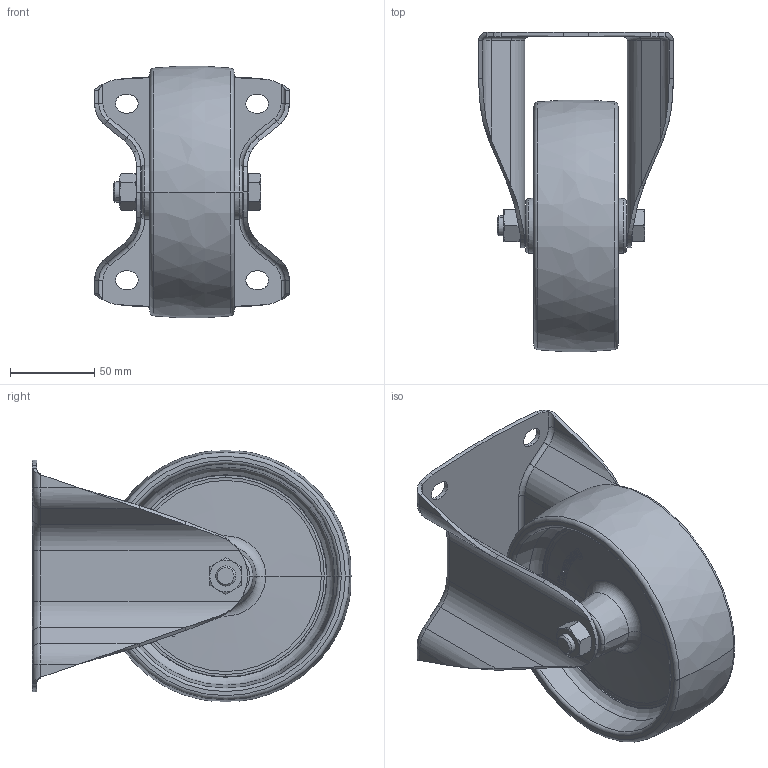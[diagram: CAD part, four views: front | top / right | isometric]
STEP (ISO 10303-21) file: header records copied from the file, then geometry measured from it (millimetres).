
FILE_DESCRIPTION (( 'STEP AP214' ), '1' );
FILE_NAME ('BX-PO_150G_007542-214.step', '2021-12-13T10:39:32', ( '' ), ( '' ), 'SwSTEP 2.0', 'SolidWorks 2018', '' );
FILE_SCHEMA (( 'AUTOMOTIVE_DESIGN' ));
Length unit declared in the file: millimetre
Products named in the file (5): GH-BX-160x60-03_20x61_G16_3D; GH-BX_160-200_GH-BX-160x60-03_20x61; PO_150_20G_G16_3D; BX-PO_150G_007542-214; PO_150-160_3D_G16_PO_150_20G_005504
Assembly tree (4 placements, depth 3):
  BX-PO_150G_007542-214
    GH-BX_160-200_GH-BX-160x60-03_20x61
      GH-BX-160x60-03_20x61_G16_3D
    PO_150-160_3D_G16_PO_150_20G_005504
      PO_150_20G_G16_3D
Bounding box: 116 x 189.86 x 149.71 mm (x, y, z)
Volume: 459851.5 mm3; surface area: 152607.2 mm2
Topology: 2 solids, 4 shells, 1238 faces, 3292 edges, 2145 vertices
Faces by surface type: bspline 532, plane 525, cone 93, cylinder 48, torus 40
Entity records: 44753 total; most frequent: CARTESIAN_POINT 18220, ORIENTED_EDGE 6584, DIRECTION 3427, EDGE_CURVE 3292, VERTEX_POINT 2145, LINE 1579, VECTOR 1579, B_SPLINE_CURVE_WITH_KNOTS 1504
